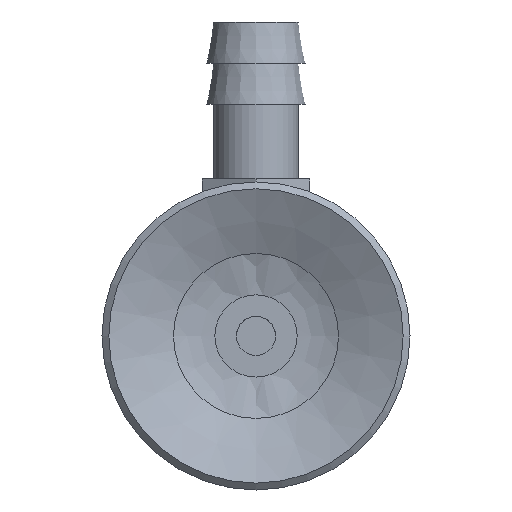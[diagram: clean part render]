
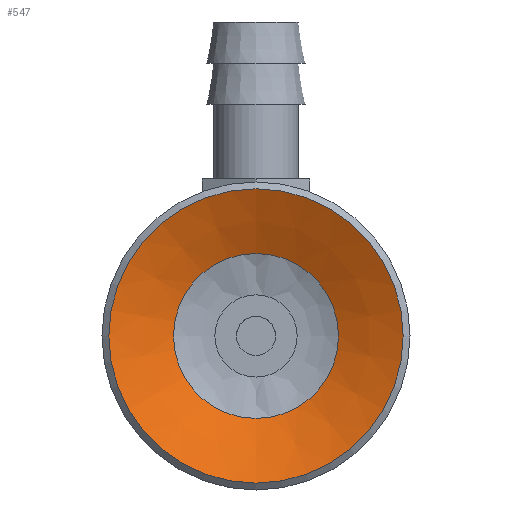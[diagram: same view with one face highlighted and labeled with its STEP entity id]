
A CAD part, front view. The second image highlights one B-rep face of the part: STEP entity #547.
In plain terms, the highlighted conical face has half-angle 65.056 degrees and reference radius 3.2 mm.
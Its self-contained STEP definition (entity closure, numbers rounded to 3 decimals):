
#547=ADVANCED_FACE('',(#807,#808),#809,.F.);
#807=FACE_BOUND('',#1124,.T.);
#808=FACE_OUTER_BOUND('',#1125,.T.);
#809=CONICAL_SURFACE('',#1126,3.2,1.135);
#1124=EDGE_LOOP('',(#1850));
#1125=EDGE_LOOP('',(#1851));
#1126=AXIS2_PLACEMENT_3D('',#1852,#1853,#1854);
#1850=ORIENTED_EDGE('',*,*,#2196,.T.);
#1851=ORIENTED_EDGE('',*,*,#2197,.T.);
#1852=CARTESIAN_POINT('',(0.0,7.896,0.0));
#1853=DIRECTION('',(-0.0,-1.0,0.));
#1854=DIRECTION('',(0.0,0.,-1.0));
#2196=EDGE_CURVE('',#2519,#2519,#2520,.T.);
#2197=EDGE_CURVE('',#2521,#2521,#2522,.T.);
#2519=VERTEX_POINT('',#3263);
#2520=CIRCLE('',#3264,4.203);
#2521=VERTEX_POINT('',#3265);
#2522=CIRCLE('',#3266,7.5);
#3263=CARTESIAN_POINT('',(0.0,7.43,-4.203));
#3264=AXIS2_PLACEMENT_3D('',#3612,#3613,#3614);
#3265=CARTESIAN_POINT('',(0.0,5.896,-7.5));
#3266=AXIS2_PLACEMENT_3D('',#3615,#3616,#3617);
#3612=CARTESIAN_POINT('',(0.0,7.43,0.0));
#3613=DIRECTION('',(0.0,1.0,0.));
#3614=DIRECTION('',(0.0,0.,-1.0));
#3615=CARTESIAN_POINT('',(0.0,5.896,0.0));
#3616=DIRECTION('',(0.0,-1.0,0.));
#3617=DIRECTION('',(0.0,0.,-1.0));
